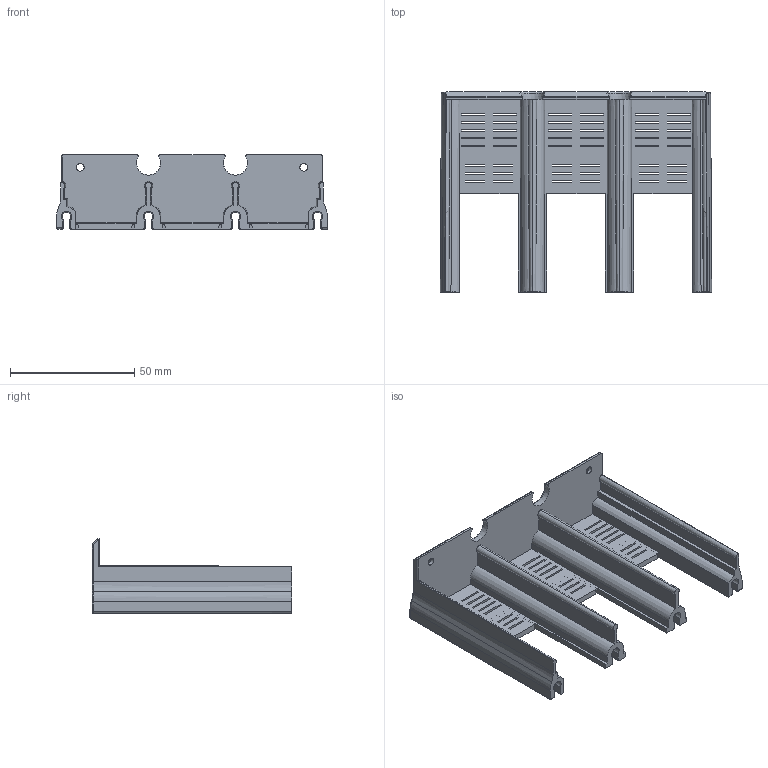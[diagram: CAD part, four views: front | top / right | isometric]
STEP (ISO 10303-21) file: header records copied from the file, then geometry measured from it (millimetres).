
FILE_DESCRIPTION (( 'STEP AP203' ), '1' );
FILE_NAME ('NDM5-250 3P傷赽欶.STEP', '2024-07-08T02:31:12', ( '' ), ( '' ), 'SwSTEP 2.0', 'SolidWorks 2018', '' );
FILE_SCHEMA (( 'CONFIG_CONTROL_DESIGN' ));
Length unit declared in the file: millimetre
Products named in the file (1): NDM5-250 3P傷赽欶車__“___
Bounding box: 109.18 x 80.5 x 29.83 mm (x, y, z)
Volume: 36433.9 mm3; surface area: 34211.3 mm2
Topology: 1 solids, 1 shells, 373 faces, 1062 edges, 688 vertices
Faces by surface type: plane 273, cylinder 37, cone 36, bspline 18, sphere 7, torus 2
Entity records: 12639 total; most frequent: CARTESIAN_POINT 2959, ORIENTED_EDGE 2122, DIRECTION 1740, EDGE_CURVE 1061, VECTOR 846, LINE 846, VERTEX_POINT 688, EDGE_LOOP 471
